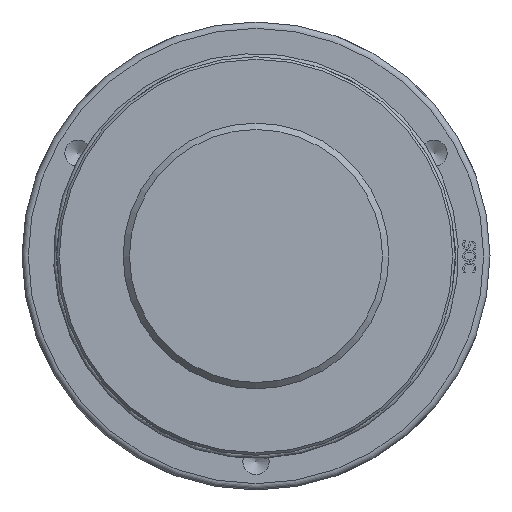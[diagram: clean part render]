
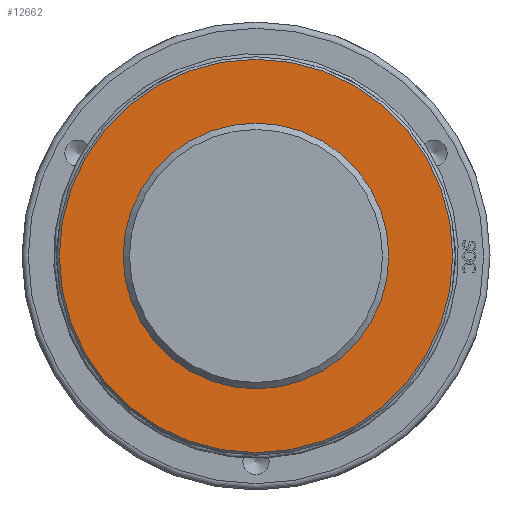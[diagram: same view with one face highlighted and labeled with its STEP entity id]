
A CAD part, front view. The second image highlights one B-rep face of the part: STEP entity #12662.
In plain terms, the highlighted planar face has unit normal (0, -1, 0) as drawn and (0, 1, 0) by its records, which use the part's own axes.
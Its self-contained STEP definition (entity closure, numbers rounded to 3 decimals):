
#90=CIRCLE('',#13317,155.5);
#92=CIRCLE('',#13321,100.67);
#171=FACE_BOUND('',#1655,.T.);
#405=PLANE('',#13320);
#890=FACE_OUTER_BOUND('',#1654,.T.);
#1654=EDGE_LOOP('',(#10008));
#1655=EDGE_LOOP('',(#10009));
#5646=VERTEX_POINT('',#19382);
#5660=VERTEX_POINT('',#19622);
#7217=EDGE_CURVE('',#5646,#5646,#90,.T.);
#7231=EDGE_CURVE('',#5660,#5660,#92,.T.);
#10008=ORIENTED_EDGE('',*,*,#7217,.F.);
#10009=ORIENTED_EDGE('',*,*,#7231,.T.);
#12662=ADVANCED_FACE('',(#890,#171),#405,.T.);
#13317=AXIS2_PLACEMENT_3D('',#19383,#14492,#14493);
#13320=AXIS2_PLACEMENT_3D('',#19621,#14498,#14499);
#13321=AXIS2_PLACEMENT_3D('',#19623,#14500,#14501);
#14492=DIRECTION('center_axis',(0.,-1.,0.));
#14493=DIRECTION('ref_axis',(1.,0.,0.));
#14498=DIRECTION('center_axis',(0.,1.,0.));
#14499=DIRECTION('ref_axis',(0.,0.,1.));
#14500=DIRECTION('center_axis',(0.,-1.,0.));
#14501=DIRECTION('ref_axis',(1.,0.,0.));
#19382=CARTESIAN_POINT('',(-155.5,105.,0.));
#19383=CARTESIAN_POINT('Origin',(0.,105.,0.));
#19621=CARTESIAN_POINT('Origin',(0.,105.,0.));
#19622=CARTESIAN_POINT('',(-100.67,105.,0.));
#19623=CARTESIAN_POINT('Origin',(0.,105.,0.));
